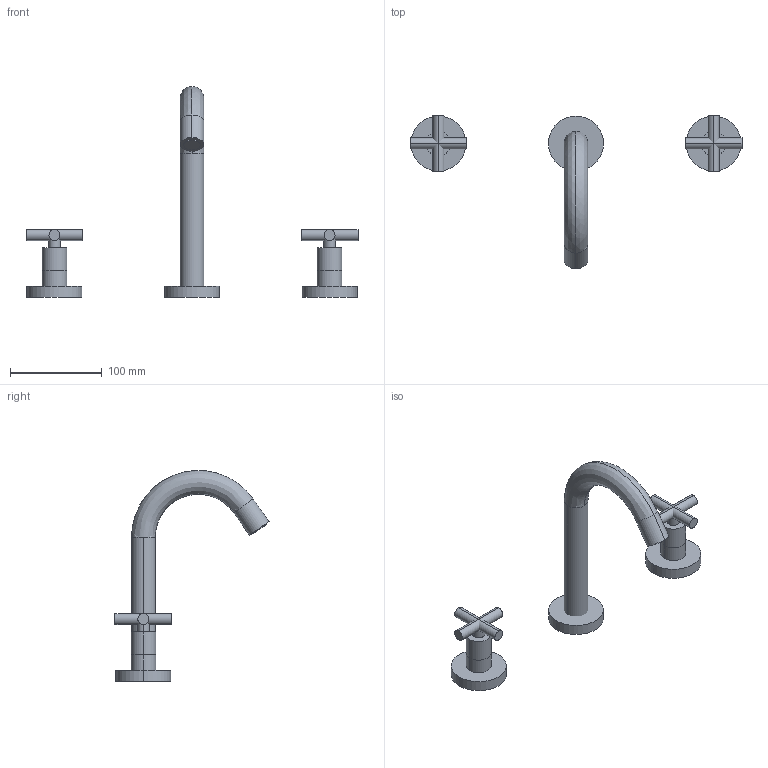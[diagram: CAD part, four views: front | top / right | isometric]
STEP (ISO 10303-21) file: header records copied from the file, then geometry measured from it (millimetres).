
FILE_DESCRIPTION(('FreeCAD Model'),'2;1');
FILE_NAME('Open CASCADE Shape Model','2024-08-08T17:47:58',('Author'),( ''),'Open CASCADE STEP processor 7.6','FreeCAD','Unknown');
FILE_SCHEMA(('AUTOMOTIVE_DESIGN { 1 0 10303 214 1 1 1 1 }'));
Length unit declared in the file: millimetre
Products named in the file (16): TopLevelAssembly; Wyciąganie001; Wyciągnięcie po ścieżce; Wyciąganie002; Wyciąganie003; Wyciąganie004; Wyciąganie005; Wyciąganie006; Wyciąganie007; Wyciąganie008; Wyciąganie009; Wyciąganie010; Wyciąganie011; Wyciąganie012; Wyciąganie013; Połączona geometria bryłowa
Assembly tree (15 placements, depth 2):
  TopLevelAssembly
    Wyciąganie001
    Wyciągnięcie po ścieżce
    Wyciąganie002
    Wyciąganie003
    Wyciąganie004
    Wyciąganie005
    Wyciąganie006
    Wyciąganie007
    Wyciąganie008
    Wyciąganie009
    Wyciąganie010
    Wyciąganie011
    Wyciąganie012
    Wyciąganie013
    Połączona geometria bryłowa
Bounding box: 362 x 168.01 x 229.9 mm (x, y, z)
Volume: 361788.8 mm3; surface area: 76705.5 mm2
Topology: 15 solids, 15 shells, 64 faces, 100 edges, 66 vertices
Faces by surface type: cylinder 32, plane 30, bspline 2
Entity records: 1920 total; most frequent: DIRECTION 324, CARTESIAN_POINT 294, ORIENTED_EDGE 200, AXIS2_PLACEMENT_3D 146, EDGE_CURVE 100, CIRCLE 68, VERTEX_POINT 66, ADVANCED_FACE 64
